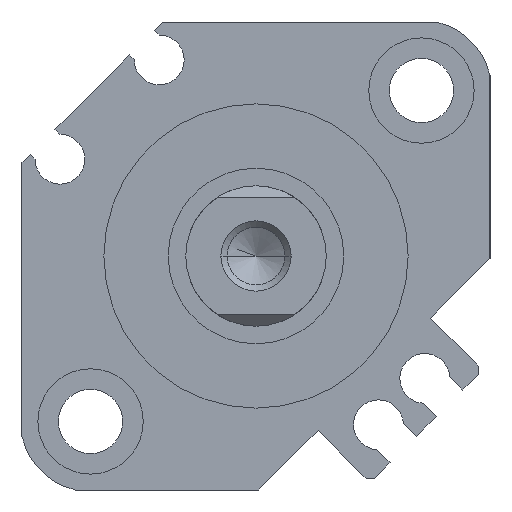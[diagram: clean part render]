
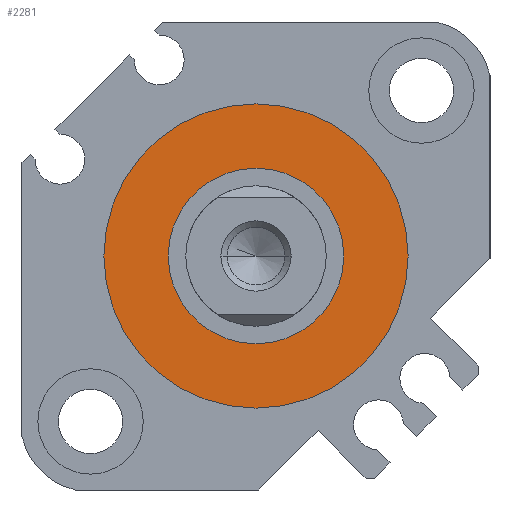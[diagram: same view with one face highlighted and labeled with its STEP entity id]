
A CAD part, left-side view. The second image highlights one B-rep face of the part: STEP entity #2281.
In plain terms, the highlighted planar face has unit normal (-1, 0, 0).
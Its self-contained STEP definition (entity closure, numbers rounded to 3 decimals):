
#177 = ORIENTED_EDGE ( 'NONE', *, *, #725, .T. ) ;
#220 = DIRECTION ( 'NONE',  ( 0., 1., 0. ) ) ;
#453 = CARTESIAN_POINT ( 'NONE',  ( 1.9, 0., 13. ) ) ;
#477 = AXIS2_PLACEMENT_3D ( 'NONE', #1072, #3189, #220 ) ;
#490 = EDGE_CURVE ( 'NONE', #1842, #1910, #2240, .T. ) ;
#521 = DIRECTION ( 'NONE',  ( 0., 0., -1. ) ) ;
#534 = EDGE_LOOP ( 'NONE', ( #708, #3217 ) ) ;
#558 = FACE_OUTER_BOUND ( 'NONE', #534, .T. ) ;
#657 = CARTESIAN_POINT ( 'NONE',  ( 1.9, 0., -7.5 ) ) ;
#697 = DIRECTION ( 'NONE',  ( 0., 0., -1. ) ) ;
#708 = ORIENTED_EDGE ( 'NONE', *, *, #1092, .F. ) ;
#717 = CARTESIAN_POINT ( 'NONE',  ( 1.9, 0., -13. ) ) ;
#725 = EDGE_CURVE ( 'NONE', #1910, #1842, #2801, .T. ) ;
#1012 = CIRCLE ( 'NONE', #1519, 13. ) ;
#1017 = AXIS2_PLACEMENT_3D ( 'NONE', #3153, #2373, #521 ) ;
#1043 = CARTESIAN_POINT ( 'NONE',  ( 1.9, 0., 7.5 ) ) ;
#1072 = CARTESIAN_POINT ( 'NONE',  ( 1.9, 0., 0. ) ) ;
#1092 = EDGE_CURVE ( 'NONE', #3107, #2676, #2675, .T. ) ;
#1104 = EDGE_CURVE ( 'NONE', #2676, #3107, #1012, .T. ) ;
#1177 = DIRECTION ( 'NONE',  ( 1., 0., 0. ) ) ;
#1210 = DIRECTION ( 'NONE',  ( 1., 0., 0. ) ) ;
#1335 = PLANE ( 'NONE',  #477 ) ;
#1519 = AXIS2_PLACEMENT_3D ( 'NONE', #2764, #1210, #2274 ) ;
#1551 = FACE_BOUND ( 'NONE', #2619, .T. ) ;
#1749 = AXIS2_PLACEMENT_3D ( 'NONE', #2279, #1177, #697 ) ;
#1842 = VERTEX_POINT ( 'NONE', #1043 ) ;
#1910 = VERTEX_POINT ( 'NONE', #657 ) ;
#2180 = DIRECTION ( 'NONE',  ( 1., 0., 0. ) ) ;
#2240 = CIRCLE ( 'NONE', #1017, 7.5 ) ;
#2274 = DIRECTION ( 'NONE',  ( 0., 0., -1. ) ) ;
#2279 = CARTESIAN_POINT ( 'NONE',  ( 1.9, 0., 0. ) ) ;
#2281 = ADVANCED_FACE ( 'NONE', ( #558, #1551 ), #1335, .F. ) ;
#2373 = DIRECTION ( 'NONE',  ( 1., 0., 0. ) ) ;
#2619 = EDGE_LOOP ( 'NONE', ( #2741, #177 ) ) ;
#2675 = CIRCLE ( 'NONE', #3120, 13. ) ;
#2676 = VERTEX_POINT ( 'NONE', #717 ) ;
#2711 = CARTESIAN_POINT ( 'NONE',  ( 1.9, 0., 0. ) ) ;
#2741 = ORIENTED_EDGE ( 'NONE', *, *, #490, .T. ) ;
#2764 = CARTESIAN_POINT ( 'NONE',  ( 1.9, 0., 0. ) ) ;
#2801 = CIRCLE ( 'NONE', #1749, 7.5 ) ;
#3107 = VERTEX_POINT ( 'NONE', #453 ) ;
#3120 = AXIS2_PLACEMENT_3D ( 'NONE', #2711, #2180, #3325 ) ;
#3153 = CARTESIAN_POINT ( 'NONE',  ( 1.9, 0., 0. ) ) ;
#3189 = DIRECTION ( 'NONE',  ( 1., 0., 0. ) ) ;
#3217 = ORIENTED_EDGE ( 'NONE', *, *, #1104, .F. ) ;
#3325 = DIRECTION ( 'NONE',  ( 0., 0., -1. ) ) ;
